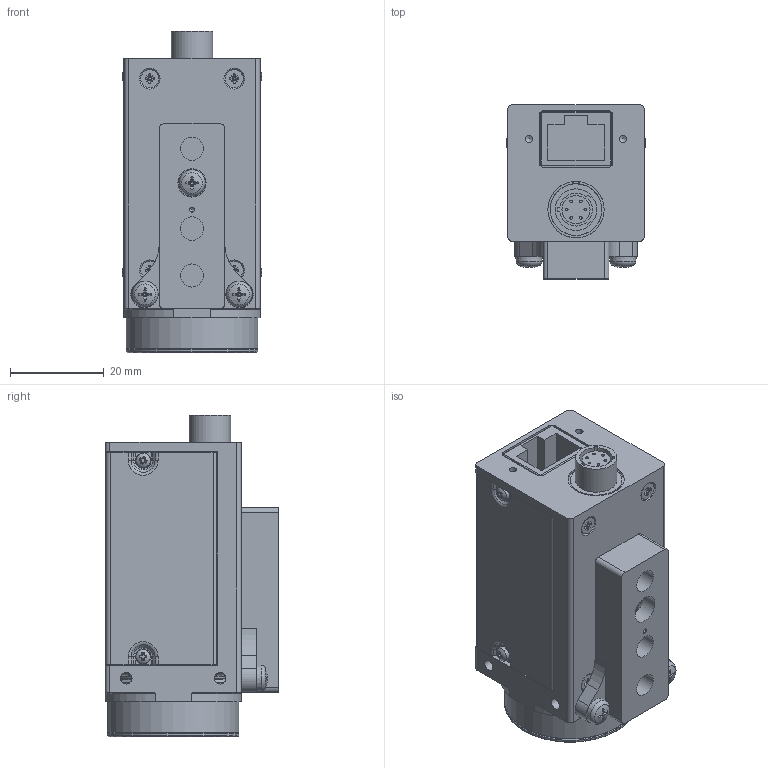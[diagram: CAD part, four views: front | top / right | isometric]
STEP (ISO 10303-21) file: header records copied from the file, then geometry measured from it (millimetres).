
FILE_DESCRIPTION(/* description */ ('XXXXplatte'),/* implementation_level */ '2;1');
FILE_NAME(/* name */ 'D:\1_Konstruktion\1_KUNDEN\TIS\139-12_135-12_124-11_121-11_FPGA-Kamera\121-11-3_FPGA-Kamera-RJ45_13-8\IPT und STEP Ableitungen für Kunden\121-11-32(FPGA-RJ45_C-Frontpl-18,8_ER-12,4)\121-11-32(FPGA-RJ45_C-Frontpl-18,8_ER-12,4).stp',/* time_stamp */ '2016-06-06T10:39:12+02:00',/* author */ ('khw'),/* organization */ (''),/* preprocessor_version */ 'ST-DEVELOPER v15.2',/* originating_system */ 'Autodesk Inventor 2014',/* authorisation */ '6767,5 mm^3');
FILE_SCHEMA (('AUTOMOTIVE_DESIGN { 1 0 10303 214 3 1 1 }'));
Length unit declared in the file: millimetre
Products named in the file (4): 121-11-32(FPGA-RJ45_C-Frontpl-18,8_ER-12,4)Redu; 121-11-2-00-02(TripodAdapter); DIN EN ISO 7045 H M3 x 6 - 4.8 - H; 121-11-32(FPGA-RJ45_C-Frontpl-18,8_ER-12,4)Step
Assembly tree (5 placements, depth 2):
  121-11-32(FPGA-RJ45_C-Frontpl-18,8_ER-12,4)Step
    121-11-32(FPGA-RJ45_C-Frontpl-18,8_ER-12,4)Redu
    121-11-2-00-02(TripodAdapter)
    DIN EN ISO 7045 H M3 x 6 - 4.8 - H  x3
Bounding box: 29.72 x 37 x 68.45 mm (x, y, z)
Volume: 19757.9 mm3; surface area: 24913.1 mm2
Topology: 5 solids, 17 shells, 1116 faces, 2956 edges, 1906 vertices
Faces by surface type: plane 530, cylinder 282, cone 217, torus 64, sphere 15, bspline 8
Full cylindrical faces by diameter (mm): 0.45 x8, 0.6 x12, 0.8 x6, 1 x9, 1.221 x10, 1.425 x4, 1.567 x10, 1.6 x8, 1.755 x4, 1.8 x2, 1.9 x4, 2.2 x4, 2.459 x9, 2.729 x3, 3 x5, 3.3 x3, 3.8 x4, 4 x4, 4.917 x2, 4.978 x1, 6 x2, 7.76 x1, 8 x1, 8.85 x1, 11 x1, 12 x2, 20.2 x1, 21.9 x1, 22 x2, 24.536 x1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
Entity records: 33262 total; most frequent: CARTESIAN_POINT 7243, DIRECTION 5254, ORIENTED_EDGE 4960, EDGE_CURVE 2480, AXIS2_PLACEMENT_3D 2041, VERTEX_POINT 1700, EDGE_LOOP 1396, LINE 1172
